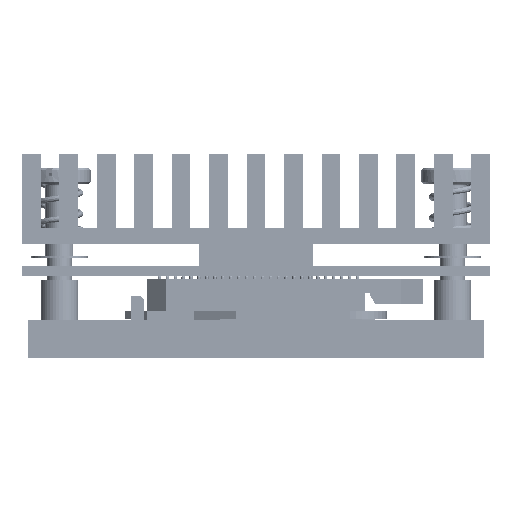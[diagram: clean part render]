
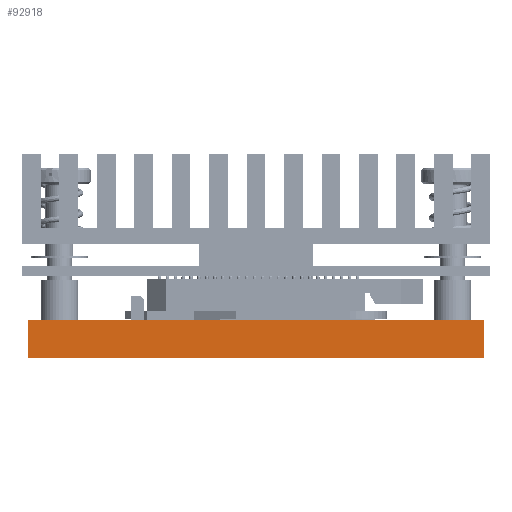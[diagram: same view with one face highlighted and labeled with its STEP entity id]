
A CAD part, front view. The second image highlights one B-rep face of the part: STEP entity #92918.
In plain terms, the highlighted planar face has unit normal (0, -1, 0).
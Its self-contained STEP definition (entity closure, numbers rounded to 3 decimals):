
#2550 = CARTESIAN_POINT ( 'NONE',  ( 36.5, -22.5, -3. ) ) ;
#25577 = EDGE_LOOP ( 'NONE', ( #185541, #60453, #205984, #237019 ) ) ;
#26581 = CARTESIAN_POINT ( 'NONE',  ( -36.5, -22.5, 3. ) ) ;
#43808 = FACE_OUTER_BOUND ( 'NONE', #25577, .T. ) ;
#56514 = CARTESIAN_POINT ( 'NONE',  ( -36.5, -22.5, -3. ) ) ;
#57739 = VERTEX_POINT ( 'NONE', #2550 ) ;
#59082 = EDGE_CURVE ( 'NONE', #184411, #57739, #171878, .T. ) ;
#60453 = ORIENTED_EDGE ( 'NONE', *, *, #59082, .T. ) ;
#65070 = CARTESIAN_POINT ( 'NONE',  ( -36.5, -22.5, 3. ) ) ;
#67426 = CARTESIAN_POINT ( 'NONE',  ( -36.5, -22.5, 3. ) ) ;
#67921 = VECTOR ( 'NONE', #116340, 1000. ) ;
#68951 = CARTESIAN_POINT ( 'NONE',  ( 36.5, -22.5, 3. ) ) ;
#87464 = AXIS2_PLACEMENT_3D ( 'NONE', #121582, #194849, #140045 ) ;
#92918 = ADVANCED_FACE ( 'NONE', ( #43808 ), #102899, .F. ) ;
#92990 = VERTEX_POINT ( 'NONE', #68951 ) ;
#94157 = CARTESIAN_POINT ( 'NONE',  ( 36.5, -22.5, 3. ) ) ;
#99959 = LINE ( 'NONE', #94157, #149004 ) ;
#100529 = VECTOR ( 'NONE', #155490, 1000. ) ;
#102899 = PLANE ( 'NONE',  #87464 ) ;
#106310 = LINE ( 'NONE', #26581, #100529 ) ;
#113463 = VECTOR ( 'NONE', #212694, 1000. ) ;
#115507 = CARTESIAN_POINT ( 'NONE',  ( 0., -22.5, -3. ) ) ;
#116340 = DIRECTION ( 'NONE',  ( 1., 0., 0. ) ) ;
#121582 = CARTESIAN_POINT ( 'NONE',  ( -36.5, -22.5, 3. ) ) ;
#140045 = DIRECTION ( 'NONE',  ( 0., 0., 1. ) ) ;
#149004 = VECTOR ( 'NONE', #222420, 1000. ) ;
#155490 = DIRECTION ( 'NONE',  ( 0., 0., -1. ) ) ;
#162447 = LINE ( 'NONE', #65070, #113463 ) ;
#171878 = LINE ( 'NONE', #115507, #67921 ) ;
#175805 = EDGE_CURVE ( 'NONE', #182343, #92990, #162447, .T. ) ;
#182343 = VERTEX_POINT ( 'NONE', #67426 ) ;
#184411 = VERTEX_POINT ( 'NONE', #56514 ) ;
#185541 = ORIENTED_EDGE ( 'NONE', *, *, #232550, .T. ) ;
#194849 = DIRECTION ( 'NONE',  ( 0., 1., 0. ) ) ;
#205984 = ORIENTED_EDGE ( 'NONE', *, *, #234183, .F. ) ;
#212694 = DIRECTION ( 'NONE',  ( 1., 0., 0. ) ) ;
#222420 = DIRECTION ( 'NONE',  ( 0., 0., -1. ) ) ;
#232550 = EDGE_CURVE ( 'NONE', #182343, #184411, #106310, .T. ) ;
#234183 = EDGE_CURVE ( 'NONE', #92990, #57739, #99959, .T. ) ;
#237019 = ORIENTED_EDGE ( 'NONE', *, *, #175805, .F. ) ;
